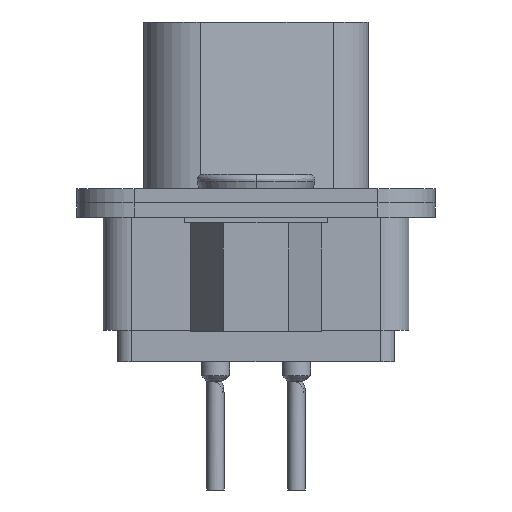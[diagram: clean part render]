
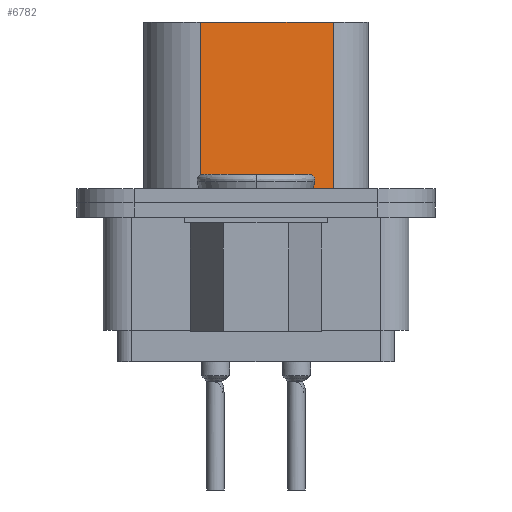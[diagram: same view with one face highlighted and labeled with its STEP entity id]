
A CAD part, left-side view. The second image highlights one B-rep face of the part: STEP entity #6782.
In plain terms, the highlighted planar face has unit normal (-0.985, -0.174, 0).
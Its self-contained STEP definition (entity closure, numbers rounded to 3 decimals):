
#99 = VERTEX_POINT ( 'NONE', #412 ) ;
#100 = VERTEX_POINT ( 'NONE', #236 ) ;
#236 = CARTESIAN_POINT ( 'NONE',  ( -12.33, 1.95, 0. ) ) ;
#412 = CARTESIAN_POINT ( 'NONE',  ( -11.508, -2.71, 0. ) ) ;
#635 = VERTEX_POINT ( 'NONE', #9025 ) ;
#637 = VERTEX_POINT ( 'NONE', #9022 ) ;
#983 = CARTESIAN_POINT ( 'NONE',  ( -11.508, -2.71, 0. ) ) ;
#988 = FACE_OUTER_BOUND ( 'NONE', #5832, .T. ) ;
#1041 = DIRECTION ( 'NONE',  ( -0.174, 0.985, 0. ) ) ;
#1043 = DIRECTION ( 'NONE',  ( 0.985, 0.174, 0. ) ) ;
#1045 = PLANE ( 'NONE',  #9516 ) ;
#5612 = ORIENTED_EDGE ( 'NONE', *, *, #7076, .F. ) ;
#5625 = ORIENTED_EDGE ( 'NONE', *, *, #7087, .T. ) ;
#5627 = ORIENTED_EDGE ( 'NONE', *, *, #7092, .F. ) ;
#5630 = ORIENTED_EDGE ( 'NONE', *, *, #7091, .F. ) ;
#5832 = EDGE_LOOP ( 'NONE', ( #5627, #5612, #5625, #5630 ) ) ;
#6782 = ADVANCED_FACE ( 'NONE', ( #988 ), #1045, .F. ) ;
#7076 = EDGE_CURVE ( 'NONE', #635, #637, #8263, .T. ) ;
#7087 = EDGE_CURVE ( 'NONE', #635, #100, #8282, .T. ) ;
#7091 = EDGE_CURVE ( 'NONE', #99, #100, #8283, .T. ) ;
#7092 = EDGE_CURVE ( 'NONE', #637, #99, #8292, .T. ) ;
#7130 = VECTOR ( 'NONE', #8265, 1000. ) ;
#7154 = VECTOR ( 'NONE', #8295, 1000. ) ;
#7156 = VECTOR ( 'NONE', #8291, 1000. ) ;
#7219 = VECTOR ( 'NONE', #8285, 1000. ) ;
#8263 = LINE ( 'NONE', #8264, #7130 ) ;
#8264 = CARTESIAN_POINT ( 'NONE',  ( -11.919, -0.38, 5.84 ) ) ;
#8265 = DIRECTION ( 'NONE',  ( 0.174, -0.985, 0. ) ) ;
#8278 = CARTESIAN_POINT ( 'NONE',  ( -11.508, -2.71, 0. ) ) ;
#8282 = LINE ( 'NONE', #8284, #7219 ) ;
#8283 = LINE ( 'NONE', #8278, #7156 ) ;
#8284 = CARTESIAN_POINT ( 'NONE',  ( -12.33, 1.95, 2.92 ) ) ;
#8285 = DIRECTION ( 'NONE',  ( 0., 0., -1. ) ) ;
#8291 = DIRECTION ( 'NONE',  ( -0.174, 0.985, 0. ) ) ;
#8292 = LINE ( 'NONE', #8294, #7154 ) ;
#8294 = CARTESIAN_POINT ( 'NONE',  ( -11.508, -2.71, 2.92 ) ) ;
#8295 = DIRECTION ( 'NONE',  ( 0., 0., -1. ) ) ;
#9022 = CARTESIAN_POINT ( 'NONE',  ( -11.508, -2.71, 5.84 ) ) ;
#9025 = CARTESIAN_POINT ( 'NONE',  ( -12.33, 1.95, 5.84 ) ) ;
#9516 = AXIS2_PLACEMENT_3D ( 'NONE', #983, #1043, #1041 ) ;
